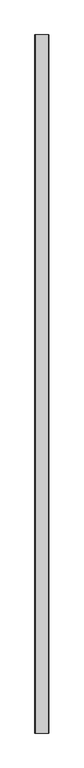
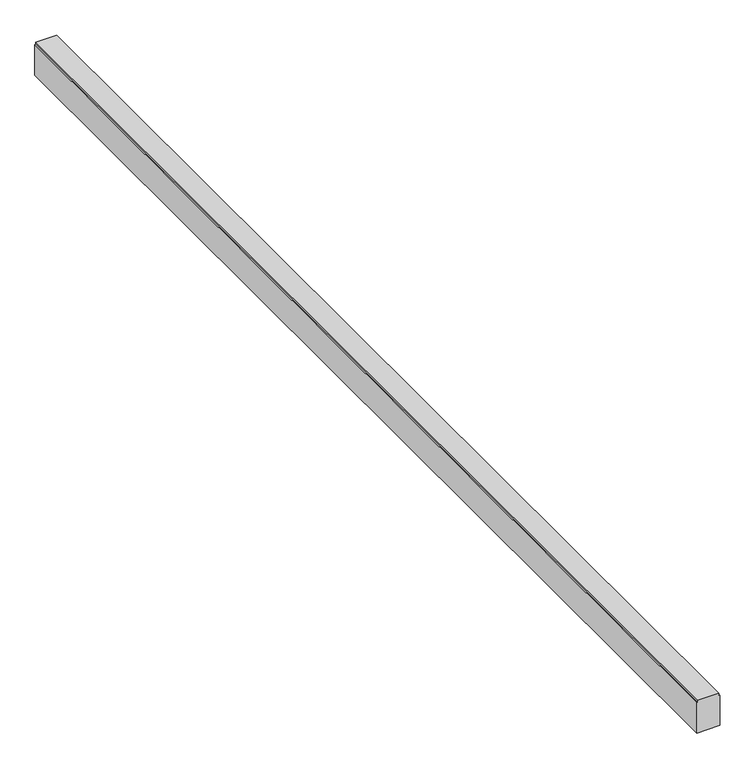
"""IFC4 building model written with IfcOpenShell, lengths in millimetres: proxy geometry, Кабель-каналы_перфорированные : Кабель-канал перфорированный 40х60 перфорация 4/6мм."""

import ifcopenshell
import ifcopenshell.guid

model = None  # the IFC model being written
_history = None  # IfcOwnerHistory: only IFC2X3 demands one
_inside = {}  # id of a spatial element -> (the spatial element, [elements in it])
_under = {}  # id of a project, library or spatial element -> (it, [spatial elements below it])
_declared = {}  # id of a project -> (the project, [libraries it declares])
_typed = {}  # id of a type object -> (the type object, [elements of that type])
_made_of = {}  # id of a material, layer set ... -> (it, [elements and type objects made of it])


def new_model(schema):
    """Start an empty IFC model of exactly this schema.

    Asked for "IFC4X3", IfcOpenShell would pick the latest addendum, in which some entities
    have other attributes; the version numbers below select the first issue.
    IFC2X3 requires an IfcOwnerHistory on every rooted entity: one is made here for all.
    """
    global model, _history
    if schema == "IFC4X3":
        model = ifcopenshell.file(schema_version=(4, 3, 0, 0))
    else:
        model = ifcopenshell.file(schema=schema)
    _inside.clear()
    _under.clear()
    _declared.clear()
    _typed.clear()
    _made_of.clear()
    _history = None
    if model.schema == "IFC2X3":
        org = make("IfcOrganization", Name="unknown")
        user = make(
            "IfcPersonAndOrganization",
            ThePerson=make("IfcPerson", FamilyName="unknown"),
            TheOrganization=org,
        )
        app = make(
            "IfcApplication",
            ApplicationDeveloper=org,
            Version="unknown",
            ApplicationFullName="unknown",
            ApplicationIdentifier="unknown",
        )
        _history = make(
            "IfcOwnerHistory",
            OwningUser=user,
            OwningApplication=app,
            ChangeAction="ADDED",
            CreationDate=0,
        )
    return model


def make(cls, **values):
    """One entity of the class cls with the attributes given. An attribute that is None is left unset."""
    return model.create_entity(
        cls, **{name: value for name, value in values.items() if value is not None}
    )


def rooted(cls, **values):
    """An entity with a GlobalId (a new one), such as an element, a storey or a relation."""
    return make(cls, GlobalId=ifcopenshell.guid.new(), OwnerHistory=_history, **values)


def si_unit(unit_type, name, prefix=None):
    """IfcSIUnit, for example si_unit("LENGTHUNIT", "METRE", prefix="MILLI")."""
    return make("IfcSIUnit", UnitType=unit_type, Prefix=prefix, Name=name)


def assignment(units):
    """IfcUnitAssignment: the units of a project."""
    return None if units is None else make("IfcUnitAssignment", Units=units)


def point(xyz):
    """IfcCartesianPoint."""
    return None if xyz is None else make("IfcCartesianPoint", Coordinates=xyz)


def direction(xyz):
    """IfcDirection."""
    return None if xyz is None else make("IfcDirection", DirectionRatios=xyz)


def frame(location, z_axis=None, x_axis=None):
    """IfcAxis2Placement3D, a coordinate frame: its origin and axes. An axis left out is left unset."""
    return make(
        "IfcAxis2Placement3D",
        Location=point(location),
        Axis=direction(z_axis),
        RefDirection=direction(x_axis),
    )


def origin():
    """The frame at (0, 0, 0) with its axes left unset."""
    return frame((0.0, 0.0, 0.0))


def place(relative_to, where):
    """IfcLocalPlacement: puts the frame where relative to a parent placement (None: the world)."""
    return make(
        "IfcLocalPlacement", PlacementRelTo=relative_to, RelativePlacement=where
    )


def context(
    kind, dimensions, precision=None, world=None, true_north=None, identifier=None
):
    """IfcGeometricRepresentationContext, for example the 3D "Model" context."""
    return make(
        "IfcGeometricRepresentationContext",
        ContextIdentifier=identifier,
        ContextType=kind,
        CoordinateSpaceDimension=dimensions,
        Precision=precision,
        WorldCoordinateSystem=world,
        TrueNorth=true_north,
    )


def project(units=None, contexts=None):
    """IfcProject with its units and contexts."""
    return rooted(
        "IfcProject",
        Name="project",
        RepresentationContexts=contexts,
        UnitsInContext=assignment(units),
    )


def spatial(cls, under=None, at=None, **own):
    """A site, building, storey or space (cls), placed at a placement, below another one or the project."""
    s = rooted(cls, ObjectPlacement=at, **own)
    if under is not None:
        _under.setdefault(under.id(), (under, []))[1].append(s)
    return s


def polyline(points):
    """IfcPolyline through the points."""
    return make("IfcPolyline", Points=[point(p) for p in points])


def outline(outer, holes=None, kind="AREA"):
    """IfcArbitraryClosedProfileDef: a profile drawn as a closed curve; with holes, ...WithVoids."""
    if holes is None:
        return make("IfcArbitraryClosedProfileDef", ProfileType=kind, OuterCurve=outer)
    return make(
        "IfcArbitraryProfileDefWithVoids",
        ProfileType=kind,
        OuterCurve=outer,
        InnerCurves=holes,
    )


def extrude(swept, where, along, depth):
    """IfcExtrudedAreaSolid: the profile swept, set in the frame where, extruded along a direction by depth."""
    return make(
        "IfcExtrudedAreaSolid",
        SweptArea=swept,
        Position=where,
        ExtrudedDirection=direction(along),
        Depth=depth,
    )


def shape(context_of_items, identifier, shape_type, items):
    """IfcShapeRepresentation: the items that make up one representation, for example the "Body"."""
    return make(
        "IfcShapeRepresentation",
        ContextOfItems=context_of_items,
        RepresentationIdentifier=identifier,
        RepresentationType=shape_type,
        Items=items,
    )


def source(mapping_origin, context_of_items, identifier, shape_type, items):
    """IfcRepresentationMap: a shape defined once, which mapped items show again and again."""
    return make(
        "IfcRepresentationMap",
        MappingOrigin=mapping_origin,
        MappedRepresentation=shape(context_of_items, identifier, shape_type, items),
    )


def transform(
    local_origin,
    x_axis=None,
    y_axis=None,
    z_axis=None,
    scale=None,
    scale2=None,
    scale3=None,
    uniform=True,
):
    """IfcCartesianTransformationOperator3D, or its non-uniform kind. x_axis, y_axis, z_axis: its Axis1, 2, 3."""
    if uniform:
        return make(
            "IfcCartesianTransformationOperator3D",
            Axis1=direction(x_axis),
            Axis2=direction(y_axis),
            LocalOrigin=point(local_origin),
            Scale=scale,
            Axis3=direction(z_axis),
        )
    return make(
        "IfcCartesianTransformationOperator3DnonUniform",
        Axis1=direction(x_axis),
        Axis2=direction(y_axis),
        LocalOrigin=point(local_origin),
        Scale=scale,
        Axis3=direction(z_axis),
        Scale2=scale2,
        Scale3=scale3,
    )


def mapped(mapping_source, mapping_target):
    """IfcMappedItem: shows the shape of a source again, moved by a transform."""
    return make(
        "IfcMappedItem", MappingSource=mapping_source, MappingTarget=mapping_target
    )


def made_of(thing, what):
    """Note that an element or type object is made of a material, layer set ...; save() writes the relation."""
    if what is not None:
        _made_of.setdefault(what.id(), (what, []))[1].append(thing)
    return thing


def element(
    cls,
    number,
    at=None,
    inside=None,
    cuts=None,
    type_object=None,
    material=None,
    context=None,
    identifier="Body",
    shape_type=None,
    held_by="IfcProductDefinitionShape",
    body=None,
    shapes=None,
    **own,
):
    """One element of the class cls, such as IfcWall. Its Tag is "e" and its number.

    at: its placement. inside: the storey or other place that contains it. cuts: it is an
    opening in that element (IfcRelVoidsElement). A single representation is given by context,
    identifier, shape_type and body (its items); several are given by shapes. held_by: the class
    of the entity that holds the representations. save() writes the other relations.
    """
    e = rooted(cls, Tag="e%d" % number, ObjectPlacement=at, **own)
    if body is not None:
        shapes = [shape(context, identifier, shape_type, body)]
    if shapes is not None:
        e.Representation = make(held_by, Representations=shapes)
    if inside is not None:
        _inside.setdefault(inside.id(), (inside, []))[1].append(e)
    if cuts is not None:
        rooted(
            "IfcRelVoidsElement", RelatingBuildingElement=cuts, RelatedOpeningElement=e
        )
    if type_object is not None:
        _typed.setdefault(type_object.id(), (type_object, []))[1].append(e)
    return made_of(e, material)


def aggregate(whole, parts):
    """IfcRelAggregates: a whole, such as a stair, and the parts it consists of."""
    return rooted("IfcRelAggregates", RelatingObject=whole, RelatedObjects=parts)


def save(model, path):
    """Write the relations noted so far, then the file.

    IfcRelAggregates (storeys below a building ...), IfcRelContainedInSpatialStructure (elements
    in a storey), IfcRelDefinesByType, IfcRelAssociatesMaterial and IfcRelDeclares: one each for
    every whole, place, type object, material and project.
    """
    for whole, parts in _under.values():
        aggregate(whole, parts)
    for where, things in _inside.values():
        rooted(
            "IfcRelContainedInSpatialStructure",
            RelatedElements=things,
            RelatingStructure=where,
        )
    for kind, things in _typed.values():
        rooted("IfcRelDefinesByType", RelatedObjects=things, RelatingType=kind)
    for what, things in _made_of.values():
        rooted("IfcRelAssociatesMaterial", RelatedObjects=things, RelatingMaterial=what)
    for by, libraries in _declared.values():
        rooted("IfcRelDeclares", RelatingContext=by, RelatedDefinitions=libraries)
    model.write(path)


def generic_models_b627e070(model_context):
    return source(origin(), model_context, "Body", "SweptSolid", [
        extrude(outline(polyline([(500.0, 0.0), (555.4686048, 0.0), (556.545727, -1.696289), (560.0, -1.696289), (560.0, -38.1977999), (556.3616607, -38.1977999), (555.4772989, -40.0), (500.0, -40.0), (500.0, 0.0)])), frame((0.0, -2000.0, 0.0), z_axis=(0.0, 1.0, 0.0), x_axis=(0.0, 0.0, 1.0)), (0.0, 0.0, 1.0), 2000.0),
    ])


if __name__ == "__main__":
    model = new_model("IFC4")
    model_context = context("Model", 3, world=origin())
    ifc_project = project(units=[si_unit("LENGTHUNIT", "METRE", prefix="MILLI")], contexts=[model_context])
    site = spatial("IfcSite", under=ifc_project)
    building = spatial("IfcBuilding", under=site)
    placement = place(None, origin())
    generic_models_shape = generic_models_b627e070(model_context)
    element("IfcBuildingElementProxy", 1, Name="Кабель-каналы_перфорированные : Кабель-канал перфорированный 40х60 перфорация 4/6мм", ObjectType="Кабель-каналы_перфорированные : Кабель-канал перфорированный 40х60 перфорация 4/6мм", at=placement, inside=building, context=model_context, shape_type="MappedRepresentation", body=[
        mapped(generic_models_shape, transform((0.0, 0.0, 0.0), x_axis=(1.0, 0.0, 0.0), y_axis=(0.0, 1.0, 0.0), z_axis=(0.0, 0.0, 1.0))),
    ])
    save(model, "model.ifc")
